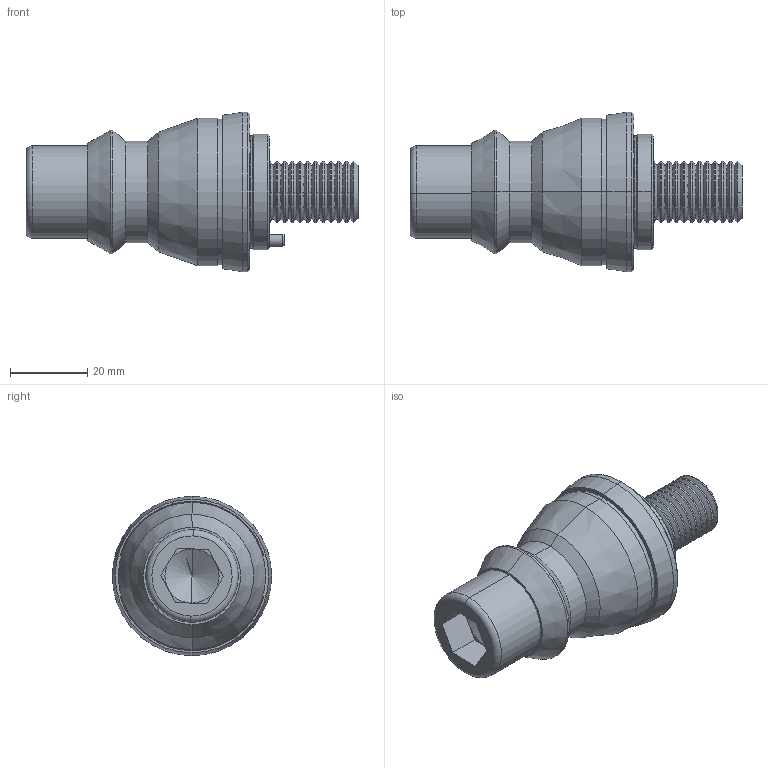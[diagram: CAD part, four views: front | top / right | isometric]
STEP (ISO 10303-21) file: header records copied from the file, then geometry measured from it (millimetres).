
FILE_DESCRIPTION (( 'STEP AP214' ), '1' );
FILE_NAME ('DXJT-40S.STEP', '2022-01-12T01:36:53', ( '' ), ( '' ), 'SwSTEP 2.0', 'SolidWorks 2018', '' );
FILE_SCHEMA (( 'AUTOMOTIVE_DESIGN' ));
Length unit declared in the file: millimetre
Products named in the file (1): DXJT-40S
Bounding box: 86 x 41.3 x 41.3 mm (x, y, z)
Volume: 48577.1 mm3; surface area: 16813 mm2
Topology: 2 solids, 2 shells, 406 faces, 1049 edges, 662 vertices
Faces by surface type: cone 126, plane 115, cylinder 89, bspline 68, torus 8
Entity records: 20796 total; most frequent: CARTESIAN_POINT 6724, ORIENTED_EDGE 2090, DIRECTION 1880, EDGE_CURVE 1045, AXIS2_PLACEMENT_3D 667, VERTEX_POINT 662, LINE 546, VECTOR 546
